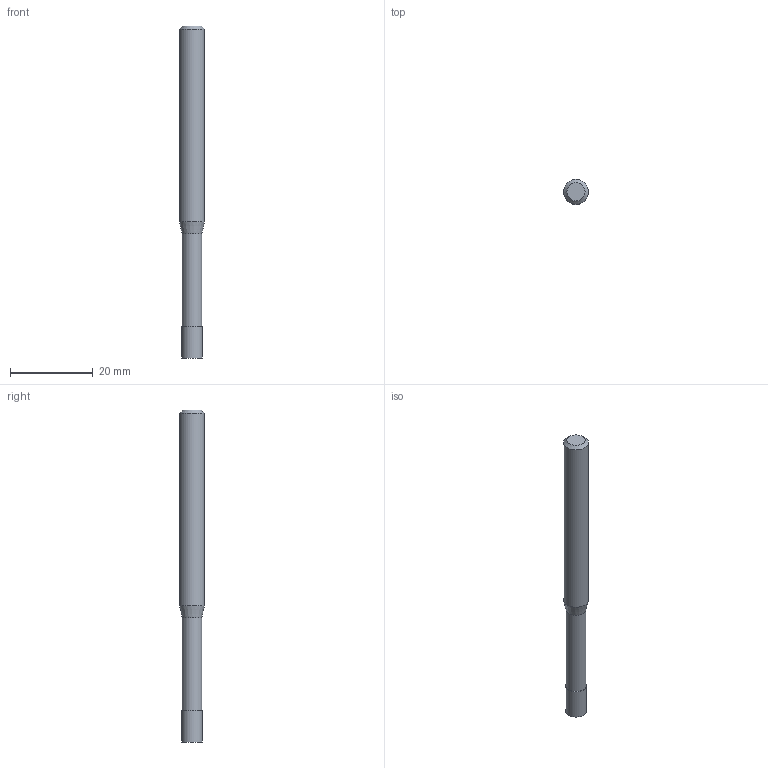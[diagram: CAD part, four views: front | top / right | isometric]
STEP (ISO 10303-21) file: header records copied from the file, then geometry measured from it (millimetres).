
FILE_DESCRIPTION((''),'2;1');
FILE_NAME('C:\Users\nsx150\AppData\Local\Temp\Mastercam 2021\17T8Q8S9EB\TEMP.step','2021-04-21T14:28:59',(''),(''),'STEP Write','Mastercam 2021 ... CNC Software, Inc.','');
FILE_SCHEMA(('AUTOMOTIVE_DESIGN'));
Length unit declared in the file: millimetre
Products named in the file (1): None
Bounding box: 6 x 6 x 80 mm (x, y, z)
Volume: 1947.7 mm3; surface area: 1471.3 mm2
Topology: 2 solids, 2 shells, 9 faces, 12 edges, 7 vertices
Faces by surface type: plane 4, cylinder 3, cone 2
Full cylindrical faces by diameter (mm): 4.8 x1, 5 x1, 6 x1
Entity records: 211 total; most frequent: DIRECTION 36, CARTESIAN_POINT 25, AXIS2_PLACEMENT_3D 18, ORIENTED_EDGE 14, EDGE_LOOP 14, STYLED_ITEM 12, ADVANCED_FACE 9, FACE_BOUND 8
